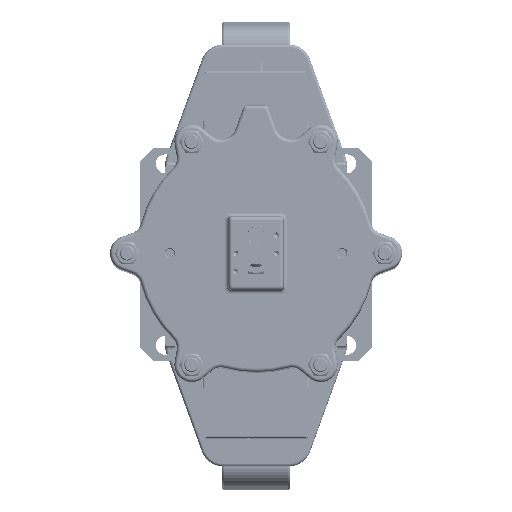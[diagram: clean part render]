
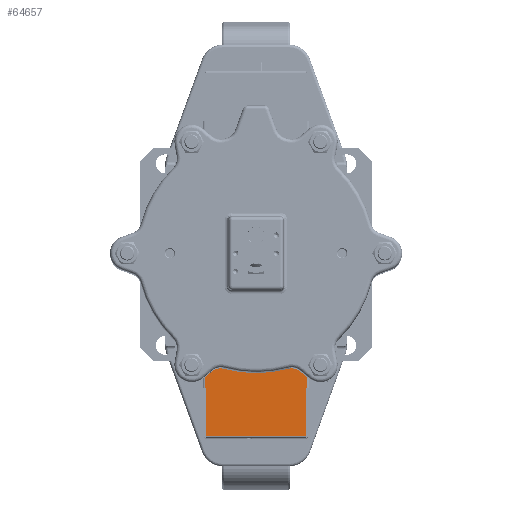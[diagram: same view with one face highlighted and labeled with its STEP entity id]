
A CAD part, top view. The second image highlights one B-rep face of the part: STEP entity #64657.
In plain terms, the highlighted planar face has unit normal (0, 0, 1).
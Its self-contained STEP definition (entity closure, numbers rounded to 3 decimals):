
#3975=PLANE('',#70404);
#6379=FACE_OUTER_BOUND('',#10466,.T.);
#10466=EDGE_LOOP('',(#47317,#47318,#47319,#47320,#47321,#47322,#47323,#47324,
#47325,#47326,#47327,#47328));
#14387=LINE('',#111914,#17779);
#14395=LINE('',#111942,#17787);
#14398=LINE('',#111948,#17790);
#14410=LINE('',#111971,#17802);
#14411=LINE('',#111973,#17803);
#14412=LINE('',#111975,#17804);
#14413=LINE('',#111977,#17805);
#14414=LINE('',#111979,#17806);
#14415=LINE('',#111981,#17807);
#14416=LINE('',#111983,#17808);
#14417=LINE('',#111984,#17809);
#14418=LINE('',#111985,#17810);
#17779=VECTOR('',#83206,10.);
#17787=VECTOR('',#83234,10.);
#17790=VECTOR('',#83241,10.);
#17802=VECTOR('',#83257,10.);
#17803=VECTOR('',#83258,10.);
#17804=VECTOR('',#83259,10.);
#17805=VECTOR('',#83260,10.);
#17806=VECTOR('',#83261,10.);
#17807=VECTOR('',#83262,10.);
#17808=VECTOR('',#83263,10.);
#17809=VECTOR('',#83264,10.);
#17810=VECTOR('',#83265,10.);
#26884=VERTEX_POINT('',#111897);
#26888=VERTEX_POINT('',#111910);
#26892=VERTEX_POINT('',#111924);
#26895=VERTEX_POINT('',#111932);
#26899=VERTEX_POINT('',#111947);
#26908=VERTEX_POINT('',#111970);
#26909=VERTEX_POINT('',#111972);
#26910=VERTEX_POINT('',#111974);
#26911=VERTEX_POINT('',#111976);
#26912=VERTEX_POINT('',#111978);
#26913=VERTEX_POINT('',#111980);
#26914=VERTEX_POINT('',#111982);
#34230=EDGE_CURVE('',#26888,#26884,#14387,.T.);
#34244=EDGE_CURVE('',#26895,#26892,#14395,.T.);
#34247=EDGE_CURVE('',#26899,#26895,#14398,.T.);
#34259=EDGE_CURVE('',#26892,#26908,#14410,.T.);
#34260=EDGE_CURVE('',#26908,#26909,#14411,.T.);
#34261=EDGE_CURVE('',#26909,#26910,#14412,.T.);
#34262=EDGE_CURVE('',#26911,#26910,#14413,.T.);
#34263=EDGE_CURVE('',#26912,#26911,#14414,.T.);
#34264=EDGE_CURVE('',#26912,#26913,#14415,.T.);
#34265=EDGE_CURVE('',#26914,#26913,#14416,.T.);
#34266=EDGE_CURVE('',#26884,#26914,#14417,.T.);
#34267=EDGE_CURVE('',#26888,#26899,#14418,.T.);
#47317=ORIENTED_EDGE('',*,*,#34244,.T.);
#47318=ORIENTED_EDGE('',*,*,#34259,.T.);
#47319=ORIENTED_EDGE('',*,*,#34260,.T.);
#47320=ORIENTED_EDGE('',*,*,#34261,.T.);
#47321=ORIENTED_EDGE('',*,*,#34262,.F.);
#47322=ORIENTED_EDGE('',*,*,#34263,.F.);
#47323=ORIENTED_EDGE('',*,*,#34264,.T.);
#47324=ORIENTED_EDGE('',*,*,#34265,.F.);
#47325=ORIENTED_EDGE('',*,*,#34266,.F.);
#47326=ORIENTED_EDGE('',*,*,#34230,.F.);
#47327=ORIENTED_EDGE('',*,*,#34267,.T.);
#47328=ORIENTED_EDGE('',*,*,#34247,.T.);
#64657=ADVANCED_FACE('',(#6379),#3975,.F.);
#70404=AXIS2_PLACEMENT_3D('',#111969,#83255,#83256);
#83206=DIRECTION('',(-1.,0.,0.));
#83234=DIRECTION('',(0.,1.,0.));
#83241=DIRECTION('',(1.,0.,0.));
#83255=DIRECTION('center_axis',(0.,0.,
-1.));
#83256=DIRECTION('ref_axis',(1.,0.,0.));
#83257=DIRECTION('',(-1.,0.,0.));
#83258=DIRECTION('',(0.,1.,0.));
#83259=DIRECTION('',(-1.,0.,0.));
#83260=DIRECTION('',(0.,1.,0.));
#83261=DIRECTION('',(1.,0.,0.));
#83262=DIRECTION('',(0.,-1.,0.));
#83263=DIRECTION('',(-1.,0.,0.));
#83264=DIRECTION('',(0.,1.,0.));
#83265=DIRECTION('',(0.,1.,0.));
#111897=CARTESIAN_POINT('',(-55.5,-200.,913.5));
#111910=CARTESIAN_POINT('',(55.5,-200.,913.5));
#111914=CARTESIAN_POINT('',(0.,-200.,913.5));
#111924=CARTESIAN_POINT('',(56.5,-132.,913.5));
#111932=CARTESIAN_POINT('',(56.5,-147.,913.5));
#111942=CARTESIAN_POINT('',(56.5,-149.556,913.5));
#111947=CARTESIAN_POINT('',(55.5,-147.,913.5));
#111948=CARTESIAN_POINT('',(55.5,-147.,913.5));
#111969=CARTESIAN_POINT('Origin',(-32.057,-152.111,913.5));
#111970=CARTESIAN_POINT('',(55.5,-132.,913.5));
#111971=CARTESIAN_POINT('',(71.85,-132.,913.5));
#111972=CARTESIAN_POINT('',(55.5,-107.,913.5));
#111973=CARTESIAN_POINT('',(55.5,-132.,913.5));
#111974=CARTESIAN_POINT('',(-55.5,-107.,913.5));
#111975=CARTESIAN_POINT('',(55.5,-107.,913.5));
#111976=CARTESIAN_POINT('',(-55.5,-132.,913.5));
#111977=CARTESIAN_POINT('',(-55.5,-132.,913.5));
#111978=CARTESIAN_POINT('',(-56.5,-132.,913.5));
#111979=CARTESIAN_POINT('',(-71.85,-132.,913.5));
#111980=CARTESIAN_POINT('',(-56.5,-147.,913.5));
#111981=CARTESIAN_POINT('',(-56.5,-142.056,913.5));
#111982=CARTESIAN_POINT('',(-55.5,-147.,913.5));
#111983=CARTESIAN_POINT('',(-55.5,-147.,913.5));
#111984=CARTESIAN_POINT('',(-55.5,-200.,913.5));
#111985=CARTESIAN_POINT('',(55.5,-200.,913.5));
